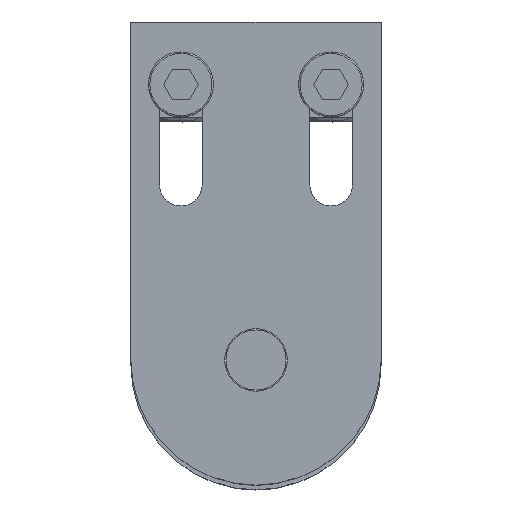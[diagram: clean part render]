
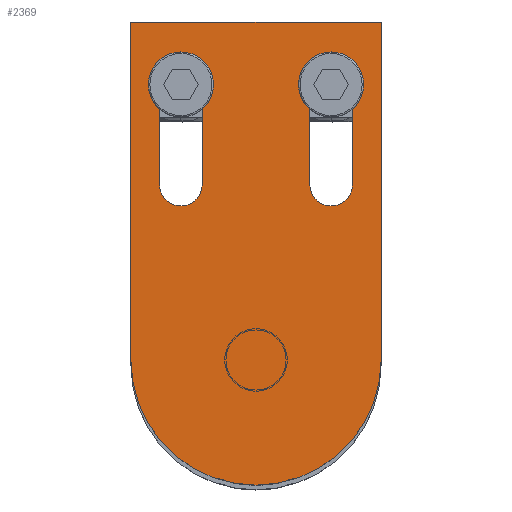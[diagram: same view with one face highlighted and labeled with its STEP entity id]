
A CAD part, top view. The second image highlights one B-rep face of the part: STEP entity #2369.
In plain terms, the highlighted planar face has unit normal (0, 0, 1) as drawn and (0, 0, -1) by its records, which use the part's own axes.
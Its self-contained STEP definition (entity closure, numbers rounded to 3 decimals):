
#62 = CARTESIAN_POINT ( 'NONE',  ( -10.75, 35., -6. ) ) ;
#71 = LINE ( 'NONE', #1165, #3360 ) ;
#91 = DIRECTION ( 'NONE',  ( 1., 0., 0. ) ) ;
#122 = VERTEX_POINT ( 'NONE', #1250 ) ;
#150 = PLANE ( 'NONE',  #3510 ) ;
#171 = ORIENTED_EDGE ( 'NONE', *, *, #369, .F. ) ;
#252 = LINE ( 'NONE', #3239, #724 ) ;
#272 = EDGE_CURVE ( 'NONE', #3676, #733, #989, .T. ) ;
#277 = EDGE_CURVE ( 'NONE', #3667, #2233, #682, .T. ) ;
#332 = DIRECTION ( 'NONE',  ( 0., 0., 1. ) ) ;
#341 = VERTEX_POINT ( 'NONE', #1742 ) ;
#369 = EDGE_CURVE ( 'NONE', #1212, #3983, #3133, .T. ) ;
#437 = CARTESIAN_POINT ( 'NONE',  ( 15., 35., -6. ) ) ;
#442 = CIRCLE ( 'NONE', #1086, 25. ) ;
#489 = CARTESIAN_POINT ( 'NONE',  ( -19.25, 55., -6. ) ) ;
#523 = AXIS2_PLACEMENT_3D ( 'NONE', #1614, #615, #2278 ) ;
#615 = DIRECTION ( 'NONE',  ( 0., 0., 1. ) ) ;
#634 = DIRECTION ( 'NONE',  ( 0., -1., 0. ) ) ;
#682 = LINE ( 'NONE', #2769, #3078 ) ;
#695 = ORIENTED_EDGE ( 'NONE', *, *, #3853, .T. ) ;
#703 = ORIENTED_EDGE ( 'NONE', *, *, #2143, .T. ) ;
#724 = VECTOR ( 'NONE', #1573, 1000. ) ;
#733 = VERTEX_POINT ( 'NONE', #3484 ) ;
#745 = VERTEX_POINT ( 'NONE', #3965 ) ;
#762 = FACE_OUTER_BOUND ( 'NONE', #1049, .T. ) ;
#823 = DIRECTION ( 'NONE',  ( 0., 0., 1. ) ) ;
#894 = ORIENTED_EDGE ( 'NONE', *, *, #1283, .F. ) ;
#928 = VECTOR ( 'NONE', #2907, 1000. ) ;
#989 = CIRCLE ( 'NONE', #1093, 4.25 ) ;
#1011 = DIRECTION ( 'NONE',  ( 0., -1., 0. ) ) ;
#1049 = EDGE_LOOP ( 'NONE', ( #3041, #1841, #171, #894 ) ) ;
#1086 = AXIS2_PLACEMENT_3D ( 'NONE', #2649, #332, #2325 ) ;
#1093 = AXIS2_PLACEMENT_3D ( 'NONE', #437, #2400, #3103 ) ;
#1131 = VECTOR ( 'NONE', #1011, 1000. ) ;
#1165 = CARTESIAN_POINT ( 'NONE',  ( 19.25, 35., -6. ) ) ;
#1168 = EDGE_LOOP ( 'NONE', ( #695, #3391, #3968, #703 ) ) ;
#1212 = VERTEX_POINT ( 'NONE', #1866 ) ;
#1250 = CARTESIAN_POINT ( 'NONE',  ( 19.25, 55., -6. ) ) ;
#1254 = EDGE_LOOP ( 'NONE', ( #3502, #3833, #4094, #1934 ) ) ;
#1283 = EDGE_CURVE ( 'NONE', #341, #1212, #252, .T. ) ;
#1360 = CARTESIAN_POINT ( 'NONE',  ( -19.25, 35., -6. ) ) ;
#1392 = AXIS2_PLACEMENT_3D ( 'NONE', #2368, #2051, #91 ) ;
#1434 = DIRECTION ( 'NONE',  ( 0., 1., 0. ) ) ;
#1467 = DIRECTION ( 'NONE',  ( -1., 0., 0. ) ) ;
#1501 = CIRCLE ( 'NONE', #523, 4.25 ) ;
#1573 = DIRECTION ( 'NONE',  ( 0., 1., 0. ) ) ;
#1605 = CARTESIAN_POINT ( 'NONE',  ( 10.75, 35., -6. ) ) ;
#1614 = CARTESIAN_POINT ( 'NONE',  ( -15., 35., -6. ) ) ;
#1634 = CARTESIAN_POINT ( 'NONE',  ( 15., 55., -6. ) ) ;
#1666 = DIRECTION ( 'NONE',  ( -1., 0., 0. ) ) ;
#1742 = CARTESIAN_POINT ( 'NONE',  ( 25., 0., -6. ) ) ;
#1841 = ORIENTED_EDGE ( 'NONE', *, *, #1927, .F. ) ;
#1866 = CARTESIAN_POINT ( 'NONE',  ( 25., 67.5, -6. ) ) ;
#1927 = EDGE_CURVE ( 'NONE', #3983, #4252, #2699, .T. ) ;
#1934 = ORIENTED_EDGE ( 'NONE', *, *, #3739, .T. ) ;
#1963 = DIRECTION ( 'NONE',  ( 0., 0., 1. ) ) ;
#1987 = VERTEX_POINT ( 'NONE', #3272 ) ;
#2013 = LINE ( 'NONE', #1360, #1131 ) ;
#2051 = DIRECTION ( 'NONE',  ( 0., 0., 1. ) ) ;
#2109 = FACE_BOUND ( 'NONE', #1168, .T. ) ;
#2120 = DIRECTION ( 'NONE',  ( 1., 0., 0. ) ) ;
#2143 = EDGE_CURVE ( 'NONE', #122, #745, #3980, .T. ) ;
#2228 = VECTOR ( 'NONE', #1467, 1000. ) ;
#2233 = VERTEX_POINT ( 'NONE', #3701 ) ;
#2237 = AXIS2_PLACEMENT_3D ( 'NONE', #1634, #1963, #1666 ) ;
#2278 = DIRECTION ( 'NONE',  ( 1., 0., 0. ) ) ;
#2325 = DIRECTION ( 'NONE',  ( 1., 0., 0. ) ) ;
#2358 = EDGE_CURVE ( 'NONE', #733, #122, #71, .T. ) ;
#2368 = CARTESIAN_POINT ( 'NONE',  ( -15., 55., -6. ) ) ;
#2369 = ADVANCED_FACE ( 'NONE', ( #2109, #4202, #762 ), #150, .F. ) ;
#2400 = DIRECTION ( 'NONE',  ( 0., 0., 1. ) ) ;
#2643 = EDGE_CURVE ( 'NONE', #1987, #3667, #1501, .T. ) ;
#2649 = CARTESIAN_POINT ( 'NONE',  ( 0., 0., -6. ) ) ;
#2699 = LINE ( 'NONE', #4277, #928 ) ;
#2738 = LINE ( 'NONE', #1605, #3097 ) ;
#2766 = EDGE_CURVE ( 'NONE', #2976, #1987, #2013, .T. ) ;
#2769 = CARTESIAN_POINT ( 'NONE',  ( -10.75, 35., -6. ) ) ;
#2907 = DIRECTION ( 'NONE',  ( 0., -1., 0. ) ) ;
#2976 = VERTEX_POINT ( 'NONE', #489 ) ;
#3041 = ORIENTED_EDGE ( 'NONE', *, *, #4015, .F. ) ;
#3078 = VECTOR ( 'NONE', #1434, 1000. ) ;
#3097 = VECTOR ( 'NONE', #634, 1000. ) ;
#3103 = DIRECTION ( 'NONE',  ( -1., 0., 0. ) ) ;
#3130 = CARTESIAN_POINT ( 'NONE',  ( 0., 0., -6. ) ) ;
#3133 = LINE ( 'NONE', #3792, #2228 ) ;
#3239 = CARTESIAN_POINT ( 'NONE',  ( 25., 0., -6. ) ) ;
#3272 = CARTESIAN_POINT ( 'NONE',  ( -19.25, 35., -6. ) ) ;
#3304 = CIRCLE ( 'NONE', #1392, 4.25 ) ;
#3360 = VECTOR ( 'NONE', #3461, 1000. ) ;
#3391 = ORIENTED_EDGE ( 'NONE', *, *, #272, .T. ) ;
#3423 = CARTESIAN_POINT ( 'NONE',  ( 10.75, 35., -6. ) ) ;
#3461 = DIRECTION ( 'NONE',  ( 0., 1., 0. ) ) ;
#3484 = CARTESIAN_POINT ( 'NONE',  ( 19.25, 35., -6. ) ) ;
#3502 = ORIENTED_EDGE ( 'NONE', *, *, #2766, .T. ) ;
#3510 = AXIS2_PLACEMENT_3D ( 'NONE', #3130, #823, #2120 ) ;
#3667 = VERTEX_POINT ( 'NONE', #62 ) ;
#3676 = VERTEX_POINT ( 'NONE', #3423 ) ;
#3701 = CARTESIAN_POINT ( 'NONE',  ( -10.75, 55., -6. ) ) ;
#3739 = EDGE_CURVE ( 'NONE', #2233, #2976, #3304, .T. ) ;
#3792 = CARTESIAN_POINT ( 'NONE',  ( 25., 67.5, -6. ) ) ;
#3829 = CARTESIAN_POINT ( 'NONE',  ( -25., 0., -6. ) ) ;
#3833 = ORIENTED_EDGE ( 'NONE', *, *, #2643, .T. ) ;
#3841 = CARTESIAN_POINT ( 'NONE',  ( -25., 67.5, -6. ) ) ;
#3853 = EDGE_CURVE ( 'NONE', #745, #3676, #2738, .T. ) ;
#3965 = CARTESIAN_POINT ( 'NONE',  ( 10.75, 55., -6. ) ) ;
#3968 = ORIENTED_EDGE ( 'NONE', *, *, #2358, .T. ) ;
#3980 = CIRCLE ( 'NONE', #2237, 4.25 ) ;
#3983 = VERTEX_POINT ( 'NONE', #3841 ) ;
#4015 = EDGE_CURVE ( 'NONE', #4252, #341, #442, .T. ) ;
#4094 = ORIENTED_EDGE ( 'NONE', *, *, #277, .T. ) ;
#4202 = FACE_BOUND ( 'NONE', #1254, .T. ) ;
#4252 = VERTEX_POINT ( 'NONE', #3829 ) ;
#4277 = CARTESIAN_POINT ( 'NONE',  ( -25., 0., -6. ) ) ;
